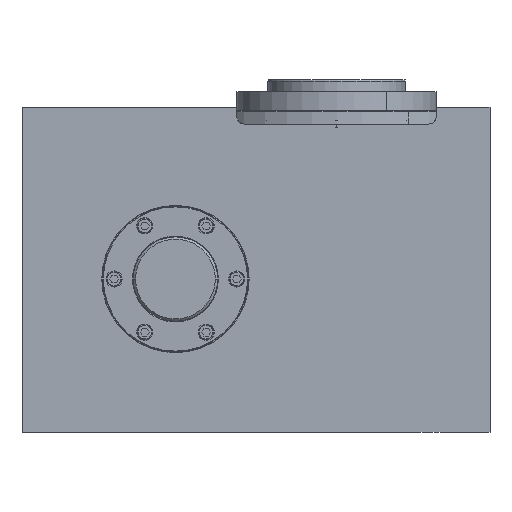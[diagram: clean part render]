
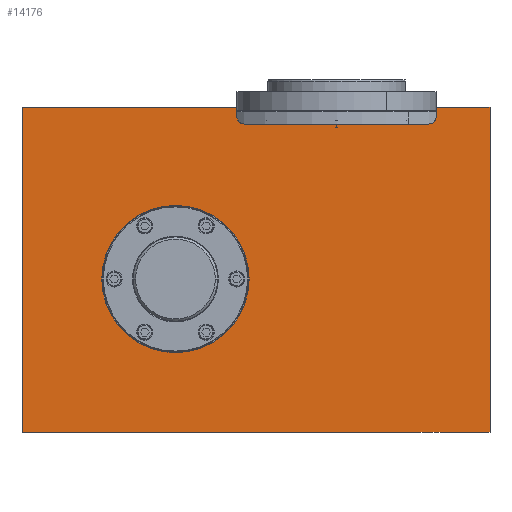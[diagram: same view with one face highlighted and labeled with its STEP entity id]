
A CAD part, left-side view. The second image highlights one B-rep face of the part: STEP entity #14176.
In plain terms, the highlighted planar face has unit normal (-1, 0, 0).
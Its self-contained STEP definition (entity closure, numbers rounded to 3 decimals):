
#1034=DIRECTION('',(0.,-1.,0.));
#1035=VECTOR('',#1034,140.);
#1036=CARTESIAN_POINT('',(-95.,205.,112.));
#1037=LINE('',#1036,#1035);
#1261=DIRECTION('',(0.,-1.,0.));
#1262=VECTOR('',#1261,305.);
#1263=CARTESIAN_POINT('',(-95.,205.,-100.));
#1264=LINE('',#1263,#1262);
#1680=DIRECTION('',(0.,0.,-1.));
#1681=VECTOR('',#1680,212.);
#1682=CARTESIAN_POINT('',(-95.,-100.,112.));
#1683=LINE('',#1682,#1681);
#1704=DIRECTION('',(0.,0.,-1.));
#1705=VECTOR('',#1704,6.);
#1706=CARTESIAN_POINT('',(-95.,65.,112.));
#1707=LINE('',#1706,#1705);
#1708=DIRECTION('',(0.,1.,0.));
#1709=VECTOR('',#1708,120.);
#1710=CARTESIAN_POINT('',(-95.,-60.,101.));
#1711=LINE('',#1710,#1709);
#1712=DIRECTION('',(0.,0.,-1.));
#1713=VECTOR('',#1712,6.);
#1714=CARTESIAN_POINT('',(-95.,-65.,112.));
#1715=LINE('',#1714,#1713);
#1716=DIRECTION('',(0.,0.,-1.));
#1717=VECTOR('',#1716,212.);
#1718=CARTESIAN_POINT('',(-95.,205.,112.));
#1719=LINE('',#1718,#1717);
#1720=CARTESIAN_POINT('',(-95.,105.,0.));
#1721=DIRECTION('',(-1.,0.,0.));
#1722=DIRECTION('',(0.,-1.,0.));
#1723=AXIS2_PLACEMENT_3D('',#1720,#1721,#1722);
#1725=CARTESIAN_POINT('',(-95.,105.,0.));
#1726=DIRECTION('',(-1.,0.,0.));
#1727=DIRECTION('',(0.,1.,0.));
#1728=AXIS2_PLACEMENT_3D('',#1725,#1726,#1727);
#1742=CARTESIAN_POINT('',(-95.,60.,106.));
#1743=DIRECTION('',(1.,0.,0.));
#1744=DIRECTION('',(0.,0.,-1.));
#1745=AXIS2_PLACEMENT_3D('',#1742,#1743,#1744);
#1859=DIRECTION('',(0.,-1.,0.));
#1860=VECTOR('',#1859,35.);
#1861=CARTESIAN_POINT('',(-95.,-65.,112.));
#1862=LINE('',#1861,#1860);
#1916=CARTESIAN_POINT('',(-95.,-60.,106.));
#1917=DIRECTION('',(1.,0.,0.));
#1918=DIRECTION('',(0.,-1.,0.));
#1919=AXIS2_PLACEMENT_3D('',#1916,#1917,#1918);
#9857=CARTESIAN_POINT('',(-95.,205.,-100.));
#9858=CARTESIAN_POINT('',(-95.,-100.,-100.));
#9859=VERTEX_POINT('',#9857);
#9860=VERTEX_POINT('',#9858);
#9861=CARTESIAN_POINT('',(-95.,-100.,112.));
#9862=VERTEX_POINT('',#9861);
#9867=CARTESIAN_POINT('',(-95.,205.,112.));
#9868=VERTEX_POINT('',#9867);
#9905=CARTESIAN_POINT('',(-95.,65.,112.));
#9906=VERTEX_POINT('',#9905);
#9907=CARTESIAN_POINT('',(-95.,-65.,112.));
#9908=VERTEX_POINT('',#9907);
#10193=CARTESIAN_POINT('',(-95.,57.,0.));
#10194=CARTESIAN_POINT('',(-95.,153.,0.));
#10195=VERTEX_POINT('',#10193);
#10196=VERTEX_POINT('',#10194);
#10269=CARTESIAN_POINT('',(-95.,-60.,101.));
#10271=VERTEX_POINT('',#10269);
#10273=CARTESIAN_POINT('',(-95.,-65.,106.));
#10275=VERTEX_POINT('',#10273);
#10286=CARTESIAN_POINT('',(-95.,60.,101.));
#10287=VERTEX_POINT('',#10286);
#10449=CARTESIAN_POINT('',(-95.,65.,106.));
#10450=VERTEX_POINT('',#10449);
#14147=CARTESIAN_POINT('',(-95.,205.,112.));
#14148=DIRECTION('',(-1.,0.,0.));
#14149=DIRECTION('',(0.,-1.,0.));
#14150=AXIS2_PLACEMENT_3D('',#14147,#14148,#14149);
#14151=PLANE('',#14150);
#14153=ORIENTED_EDGE('',*,*,#14152,.T.);
#14155=ORIENTED_EDGE('',*,*,#14154,.F.);
#14157=ORIENTED_EDGE('',*,*,#14156,.F.);
#14159=ORIENTED_EDGE('',*,*,#14158,.F.);
#14161=ORIENTED_EDGE('',*,*,#14160,.F.);
#14163=ORIENTED_EDGE('',*,*,#14162,.T.);
#14164=ORIENTED_EDGE('',*,*,#14126,.T.);
#14165=ORIENTED_EDGE('',*,*,#13685,.F.);
#14166=ORIENTED_EDGE('',*,*,#13522,.F.);
#14167=ORIENTED_EDGE('',*,*,#13485,.T.);
#14168=EDGE_LOOP('',(#14153,#14155,#14157,#14159,#14161,#14163,#14164,#14165,
#14166,#14167));
#14169=FACE_OUTER_BOUND('',#14168,.F.);
#14171=ORIENTED_EDGE('',*,*,#14170,.T.);
#14173=ORIENTED_EDGE('',*,*,#14172,.T.);
#14174=EDGE_LOOP('',(#14171,#14173));
#14175=FACE_BOUND('',#14174,.F.);
#14176=ADVANCED_FACE('',(#14169,#14175),#14151,.T.);
#1724=CIRCLE('',#1723,48.);
#1729=CIRCLE('',#1728,48.);
#1746=CIRCLE('',#1745,5.);
#1920=CIRCLE('',#1919,5.);
#13485=EDGE_CURVE('',#9868,#9906,#1037,.T.);
#13522=EDGE_CURVE('',#9868,#9859,#1719,.T.);
#13685=EDGE_CURVE('',#9859,#9860,#1264,.T.);
#14126=EDGE_CURVE('',#9862,#9860,#1683,.T.);
#14152=EDGE_CURVE('',#9906,#10450,#1707,.T.);
#14154=EDGE_CURVE('',#10287,#10450,#1746,.T.);
#14156=EDGE_CURVE('',#10271,#10287,#1711,.T.);
#14158=EDGE_CURVE('',#10275,#10271,#1920,.T.);
#14160=EDGE_CURVE('',#9908,#10275,#1715,.T.);
#14162=EDGE_CURVE('',#9908,#9862,#1862,.T.);
#14170=EDGE_CURVE('',#10195,#10196,#1724,.T.);
#14172=EDGE_CURVE('',#10196,#10195,#1729,.T.);
